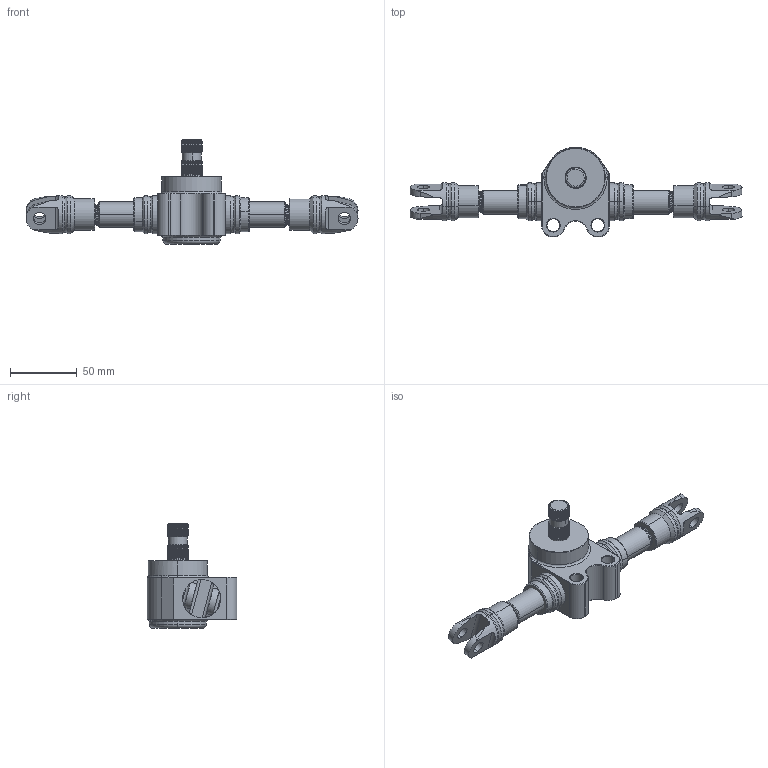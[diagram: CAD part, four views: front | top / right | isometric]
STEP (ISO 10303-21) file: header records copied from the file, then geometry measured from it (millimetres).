
FILE_DESCRIPTION (( 'STEP AP214' ), '1' );
FILE_NAME ('57100(Solid).STEP', '2024-01-30T00:51:29', ( '' ), ( '' ), 'SwSTEP 2.0', 'SolidWorks 2024', '' );
FILE_SCHEMA (( 'AUTOMOTIVE_DESIGN' ));
Length unit declared in the file: inch
Products named in the file (7): 57100-2; 91985A191_STEEL SPIRAL INTERNAL RETAINING RING_91985A191; 57100-3; 57100-5; 57100(Solid); 57100-1; 57100-4
Assembly tree (8 placements, depth 2):
  57100(Solid)
    57100-1
    91985A191_STEEL SPIRAL INTERNAL RETAINING RING_91985A191
    57100-2
    57100-3
    57100-4  x2
    57100-5  x2
Bounding box: 248.92 x 67.31 x 78.36 mm (x, y, z)
Volume: 256345.2 mm3; surface area: 54249.4 mm2
Topology: 8 solids, 8 shells, 698 faces, 1821 edges, 1145 vertices
Faces by surface type: cylinder 254, plane 213, bspline 124, torus 59, cone 48
Entity records: 34291 total; most frequent: CARTESIAN_POINT 19859, ORIENTED_EDGE 3382, DIRECTION 2397, EDGE_CURVE 1691, VERTEX_POINT 1067, AXIS2_PLACEMENT_3D 903, EDGE_LOOP 654, B_SPLINE_CURVE_WITH_KNOTS 645
